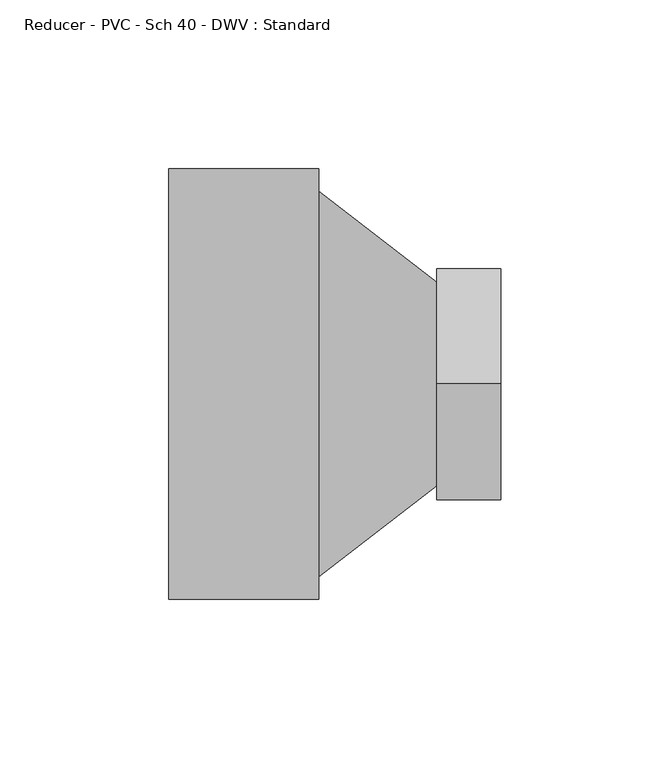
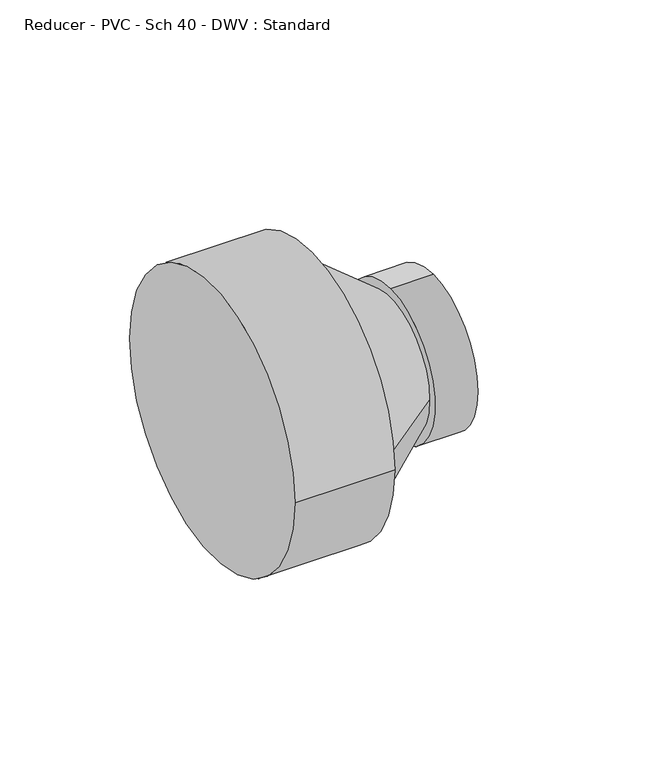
"""IFC4 building model written with IfcOpenShell, lengths in millimetres: pipe fitting geometry, Reducer - PVC - Sch 40 - DWV : Standard."""

from ifc_helpers import new_model, si_unit, frame, origin, place, context, project, spatial, circle_curve, source, transform, mapped, element, save
from ifc_brep_helpers import plane_surface, cylinder_surface, spline_surface, advanced_brep


def reducer_pvc_sch_40_dwv_standard_75c2b4cb(model_context):
    return source(origin(), model_context, "Body", "AdvancedBrep", [
        advanced_brep(
        [(0.0, 63.754, 0.0), (0.0, -63.754, 0.0), (44.45, 63.754, 0.0), (44.45, -63.754, 0.0), (44.45, -57.15, 0.0), (44.45, 57.15, 0.0), (79.375, 30.1603694, -2.58e-05), (79.375, -30.1646306, -2.58e-05), (79.375, -0.0021306, 34.3153742), (79.375, -0.0021306, -34.3154258), (98.425, -0.0021306, 34.3153742), (98.425, -0.0021306, -34.3154258)],
        [
            (0, 1, circle_curve(frame((0.0, 0.0, 0.0), z_axis=(-1.0, 0.0, 0.0), x_axis=(0.0, -1.0, 0.0)), 63.754)),
            (1, 0, circle_curve(frame((0.0, 0.0, 0.0), z_axis=(-1.0, 0.0, 0.0), x_axis=(0.0, -1.0, 0.0)), 63.754)),
            (2, 3, circle_curve(frame((44.45, 0.0, 0.0), z_axis=(1.0, 0.0, 0.0), x_axis=(0.0, -1.0, 0.0)), 63.754)),
            (3, 2, circle_curve(frame((44.45, 0.0, 0.0), z_axis=(1.0, 0.0, 0.0), x_axis=(0.0, -1.0, 0.0)), 63.754)),
            (4, 5, circle_curve(frame((44.45, 0.0, 0.0), z_axis=(-1.0, 0.0, 0.0), x_axis=(0.0, -1.0, 0.0)), 57.15)),
            (5, 4, circle_curve(frame((44.45, 0.0, 0.0), z_axis=(-1.0, 0.0, 0.0), x_axis=(0.0, -1.0, 0.0)), 57.15)),
            (1, 3),
            (2, 0),
            (5, 6),
            (6, 7, circle_curve(frame((79.375, -0.0021306, -2.58e-05), z_axis=(-1.0, 0.0, 0.0), x_axis=(0.0, -1.0, 0.0)), 30.1625)),
            (7, 4),
            (7, 6, circle_curve(frame((79.375, -0.0021306, -2.58e-05), z_axis=(-1.0, 0.0, 0.0), x_axis=(0.0, -1.0, 0.0)), 30.1625)),
            (8, 9, circle_curve(frame((79.375, -0.0021306, -2.58e-05), z_axis=(-1.0, 0.0, 0.0), x_axis=(0.0, 0.0, -1.0)), 34.3154)),
            (9, 8, circle_curve(frame((79.375, -0.0021306, -2.58e-05), z_axis=(-1.0, 0.0, 0.0), x_axis=(0.0, 0.0, -1.0)), 34.3154)),
            (10, 11, circle_curve(frame((98.425, -0.0021306, -2.58e-05), z_axis=(1.0, 0.0, 0.0), x_axis=(0.0, 0.0, -1.0)), 34.3154)),
            (11, 10, circle_curve(frame((98.425, -0.0021306, -2.58e-05), z_axis=(1.0, 0.0, 0.0), x_axis=(0.0, 0.0, -1.0)), 34.3154)),
            (9, 11),
            (10, 8),
        ],
        [
            plane_surface(frame((0.0, 0.0, 0.0), z_axis=(-1.0, 0.0, 0.0), x_axis=(0.0, 0.0, 1.0))),
            plane_surface(frame((44.45, 0.0, 0.0), z_axis=(1.0, 0.0, 0.0), x_axis=(0.0, 0.0, 1.0))),
            cylinder_surface(frame((0.0, 0.0, 0.0), z_axis=(-1.0, 0.0, 0.0), x_axis=(0.0, -1.0, 0.0)), 63.754),
            spline_surface(1, 2, [[(44.45, 57.15, 0.0), (44.45, 57.15, -57.15), (44.45, 0.0, -57.15), (44.45, -57.15, -57.15), (44.45, -57.15, 0.0)], [(79.375, 30.1603694, -2.58e-05), (79.375, 30.1603694, -30.1625258), (79.375, -0.0021306, -30.1625258), (79.375, -30.164630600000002, -30.1625258), (79.375, -30.1646306, -2.58e-05)]], [2, 2], [3, 2, 3], [0.0, 1.0], [0.0, 1.0, 2.0], weights=[[1.0, 0.7071067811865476, 1.0, 0.7071067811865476, 1.0], [1.0, 0.7071067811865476, 1.0, 0.7071067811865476, 1.0]]),
            spline_surface(1, 2, [[(44.45, -57.15, 0.0), (44.45, -57.15, 57.15), (44.45, 0.0, 57.15), (44.45, 57.15, 57.15), (44.45, 57.15, 0.0)], [(79.375, -30.1646306, -2.58e-05), (79.375, -30.1646306, 30.1624742), (79.375, -0.0021306, 30.1624742), (79.375, 30.160369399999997, 30.1624742), (79.375, 30.1603694, -2.58e-05)]], [2, 2], [3, 2, 3], [0.0, 1.0], [0.0, 1.0, 2.0], weights=[[1.0, 0.7071067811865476, 1.0, 0.7071067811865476, 1.0], [1.0, 0.7071067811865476, 1.0, 0.7071067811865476, 1.0]]),
            plane_surface(frame((79.375, -0.0021306, -2.58e-05), z_axis=(-1.0, 0.0, 0.0), x_axis=(0.0, -1.0, 0.0))),
            plane_surface(frame((98.425, -0.0021306, -2.58e-05), z_axis=(1.0, 0.0, 0.0), x_axis=(0.0, -1.0, 0.0))),
            cylinder_surface(frame((79.375, -0.0021306, -2.58e-05), z_axis=(-1.0, 0.0, 0.0), x_axis=(0.0, 0.0, -1.0)), 34.3154),
        ],
        [
            (0, [[1, 2]]),
            (1, [[3, 4], [5, 6]]),
            (2, [[7, -3, 8, -2]]),
            (2, [[-8, -4, -7, -1]]),
            (3, [[-6, 9, 10, 11]]),
            (4, [[12, -9, -5, -11]]),
            (5, [[13, 14], [-12, -10]]),
            (6, [[15, 16]]),
            (7, [[17, -15, 18, -14]]),
            (7, [[-18, -16, -17, -13]]),
        ],
    ),
    ])


if __name__ == "__main__":
    model = new_model("IFC4")
    model_context = context("Model", 3, world=origin())
    ifc_project = project(units=[si_unit("LENGTHUNIT", "METRE", prefix="MILLI")], contexts=[model_context])
    site = spatial("IfcSite", under=ifc_project)
    building = spatial("IfcBuilding", under=site)
    placement = place(None, origin())
    reducer_pvc_sch_40_dwv_standard_shape = reducer_pvc_sch_40_dwv_standard_75c2b4cb(model_context)
    element("IfcPipeFitting", 1, ObjectType="Reducer - PVC - Sch 40 - DWV : Standard", at=placement, inside=building, context=model_context, shape_type="MappedRepresentation", body=[
        mapped(reducer_pvc_sch_40_dwv_standard_shape, transform((0.0, 0.0, 0.0), x_axis=(1.0, 0.0, 0.0), y_axis=(0.0, 1.0, 0.0), z_axis=(0.0, 0.0, 1.0))),
    ])
    save(model, "model.ifc")
